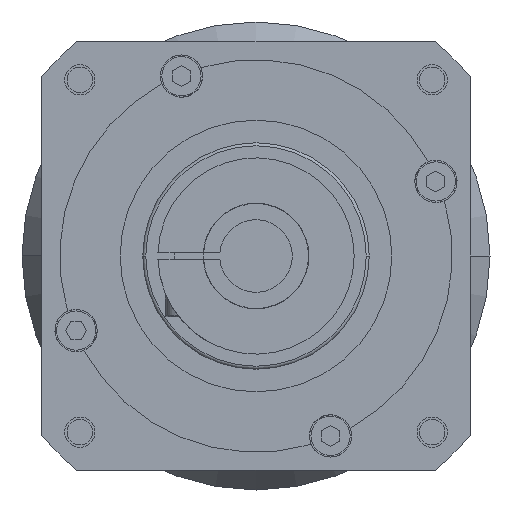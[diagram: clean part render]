
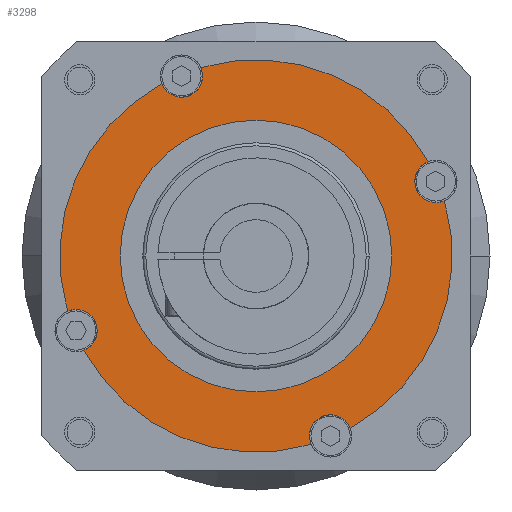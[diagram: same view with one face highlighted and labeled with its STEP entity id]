
A CAD part, left-side view. The second image highlights one B-rep face of the part: STEP entity #3298.
In plain terms, the highlighted planar face has unit normal (-1, 0, 0).
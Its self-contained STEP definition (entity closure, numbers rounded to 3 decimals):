
#576=CARTESIAN_POINT('',(5.,0.,0.));
#577=DIRECTION('',(1.,0.,0.));
#578=DIRECTION('',(0.,0.281,0.96));
#579=AXIS2_PLACEMENT_3D('',#576,#577,#578);
#581=CARTESIAN_POINT('',(5.,0.,0.));
#582=DIRECTION('',(-1.,0.,0.));
#583=DIRECTION('',(0.,-0.48,-0.877));
#584=AXIS2_PLACEMENT_3D('',#581,#582,#583);
#607=CARTESIAN_POINT('',(5.,0.,0.));
#608=DIRECTION('',(-1.,0.,0.));
#609=DIRECTION('',(0.,0.877,-0.48));
#610=AXIS2_PLACEMENT_3D('',#607,#608,#609);
#621=CARTESIAN_POINT('',(5.,0.,0.));
#622=DIRECTION('',(-1.,0.,0.));
#623=DIRECTION('',(0.,0.48,0.877));
#624=AXIS2_PLACEMENT_3D('',#621,#622,#623);
#634=CARTESIAN_POINT('',(5.,0.,0.));
#635=DIRECTION('',(-1.,0.,0.));
#636=DIRECTION('',(0.,1.,0.));
#637=AXIS2_PLACEMENT_3D('',#634,#635,#636);
#639=CARTESIAN_POINT('',(5.,0.,0.));
#640=DIRECTION('',(1.,0.,0.));
#641=DIRECTION('',(0.,1.,0.));
#642=AXIS2_PLACEMENT_3D('',#639,#640,#641);
#644=CARTESIAN_POINT('',(5.,-24.683,-59.59));
#645=DIRECTION('',(-1.,0.,0.));
#646=DIRECTION('',(0.,-0.93,0.367));
#647=AXIS2_PLACEMENT_3D('',#644,#645,#646);
#649=CARTESIAN_POINT('',(5.,-24.683,-59.59));
#650=DIRECTION('',(-1.,0.,0.));
#651=DIRECTION('',(0.,0.,1.));
#652=AXIS2_PLACEMENT_3D('',#649,#650,#651);
#654=CARTESIAN_POINT('',(5.,59.59,-24.683));
#655=DIRECTION('',(-1.,0.,0.));
#656=DIRECTION('',(0.,-0.367,-0.93));
#657=AXIS2_PLACEMENT_3D('',#654,#655,#656);
#659=CARTESIAN_POINT('',(5.,59.59,-24.683));
#660=DIRECTION('',(-1.,0.,0.));
#661=DIRECTION('',(0.,0.,1.));
#662=AXIS2_PLACEMENT_3D('',#659,#660,#661);
#664=CARTESIAN_POINT('',(5.,24.683,59.59));
#665=DIRECTION('',(-1.,0.,0.));
#666=DIRECTION('',(0.,0.93,-0.367));
#667=AXIS2_PLACEMENT_3D('',#664,#665,#666);
#669=CARTESIAN_POINT('',(5.,24.683,59.59));
#670=DIRECTION('',(-1.,0.,0.));
#671=DIRECTION('',(0.,0.,-1.));
#672=AXIS2_PLACEMENT_3D('',#669,#670,#671);
#674=CARTESIAN_POINT('',(5.,-59.59,24.683));
#675=DIRECTION('',(-1.,0.,0.));
#676=DIRECTION('',(0.,0.367,0.93));
#677=AXIS2_PLACEMENT_3D('',#674,#675,#676);
#679=CARTESIAN_POINT('',(5.,-59.59,24.683));
#680=DIRECTION('',(-1.,0.,0.));
#681=DIRECTION('',(0.,0.,-1.));
#682=AXIS2_PLACEMENT_3D('',#679,#680,#681);
#1810=CARTESIAN_POINT('',(5.,-45.,0.));
#1812=VERTEX_POINT('',#1810);
#1814=CARTESIAN_POINT('',(5.,45.,0.));
#1816=VERTEX_POINT('',#1814);
#1940=CARTESIAN_POINT('',(5.,-24.683,-52.59));
#1941=VERTEX_POINT('',#1940);
#1942=CARTESIAN_POINT('',(5.,24.683,52.59));
#1943=VERTEX_POINT('',#1942);
#1944=CARTESIAN_POINT('',(5.,59.59,-17.683));
#1945=VERTEX_POINT('',#1944);
#2214=CARTESIAN_POINT('',(5.,-31.196,-57.025));
#2215=VERTEX_POINT('',#2214);
#2216=CARTESIAN_POINT('',(5.,-18.264,-62.381));
#2217=VERTEX_POINT('',#2216);
#2218=CARTESIAN_POINT('',(5.,18.264,62.381));
#2219=VERTEX_POINT('',#2218);
#2220=CARTESIAN_POINT('',(5.,31.196,57.025));
#2221=VERTEX_POINT('',#2220);
#2222=CARTESIAN_POINT('',(5.,57.025,-31.196));
#2223=VERTEX_POINT('',#2222);
#2224=CARTESIAN_POINT('',(5.,62.381,-18.264));
#2225=VERTEX_POINT('',#2224);
#2226=CARTESIAN_POINT('',(5.,-59.59,17.683));
#2227=CARTESIAN_POINT('',(5.,-62.381,18.264));
#2228=VERTEX_POINT('',#2226);
#2229=VERTEX_POINT('',#2227);
#2230=CARTESIAN_POINT('',(5.,-57.025,31.196));
#2231=VERTEX_POINT('',#2230);
#3268=CARTESIAN_POINT('',(5.,0.,0.));
#3269=DIRECTION('',(1.,0.,0.));
#3270=DIRECTION('',(0.,1.,0.));
#3271=AXIS2_PLACEMENT_3D('',#3268,#3269,#3270);
#3272=PLANE('',#3271);
#3273=ORIENTED_EDGE('',*,*,#3168,.T.);
#3274=ORIENTED_EDGE('',*,*,#3183,.T.);
#3275=ORIENTED_EDGE('',*,*,#3230,.F.);
#3277=ORIENTED_EDGE('',*,*,#3276,.T.);
#3279=ORIENTED_EDGE('',*,*,#3278,.T.);
#3280=ORIENTED_EDGE('',*,*,#3243,.F.);
#3282=ORIENTED_EDGE('',*,*,#3281,.T.);
#3283=ORIENTED_EDGE('',*,*,#3257,.T.);
#3284=ORIENTED_EDGE('',*,*,#3202,.T.);
#3286=ORIENTED_EDGE('',*,*,#3285,.T.);
#3288=ORIENTED_EDGE('',*,*,#3287,.T.);
#3289=ORIENTED_EDGE('',*,*,#3212,.F.);
#3290=EDGE_LOOP('',(#3273,#3274,#3275,#3277,#3279,#3280,#3282,#3283,#3284,#3286,
#3288,#3289));
#3291=FACE_OUTER_BOUND('',#3290,.F.);
#3293=ORIENTED_EDGE('',*,*,#3292,.T.);
#3295=ORIENTED_EDGE('',*,*,#3294,.F.);
#3296=EDGE_LOOP('',(#3293,#3295));
#3297=FACE_BOUND('',#3296,.F.);
#580=CIRCLE('',#579,65.);
#585=CIRCLE('',#584,65.);
#611=CIRCLE('',#610,65.);
#625=CIRCLE('',#624,65.);
#638=CIRCLE('',#637,45.);
#643=CIRCLE('',#642,45.);
#648=CIRCLE('',#647,7.);
#653=CIRCLE('',#652,7.);
#658=CIRCLE('',#657,7.);
#663=CIRCLE('',#662,7.);
#668=CIRCLE('',#667,7.);
#673=CIRCLE('',#672,7.);
#678=CIRCLE('',#677,7.);
#683=CIRCLE('',#682,7.);
#3168=EDGE_CURVE('',#2215,#1941,#648,.T.);
#3183=EDGE_CURVE('',#1941,#2217,#653,.T.);
#3202=EDGE_CURVE('',#2219,#2231,#580,.T.);
#3212=EDGE_CURVE('',#2215,#2229,#585,.T.);
#3230=EDGE_CURVE('',#2223,#2217,#611,.T.);
#3243=EDGE_CURVE('',#2221,#2225,#625,.T.);
#3257=EDGE_CURVE('',#1943,#2219,#673,.T.);
#3276=EDGE_CURVE('',#2223,#1945,#658,.T.);
#3278=EDGE_CURVE('',#1945,#2225,#663,.T.);
#3281=EDGE_CURVE('',#2221,#1943,#668,.T.);
#3285=EDGE_CURVE('',#2231,#2228,#678,.T.);
#3287=EDGE_CURVE('',#2228,#2229,#683,.T.);
#3292=EDGE_CURVE('',#1816,#1812,#638,.T.);
#3294=EDGE_CURVE('',#1816,#1812,#643,.T.);
#3298=ADVANCED_FACE('',(#3291,#3297),#3272,.F.);
